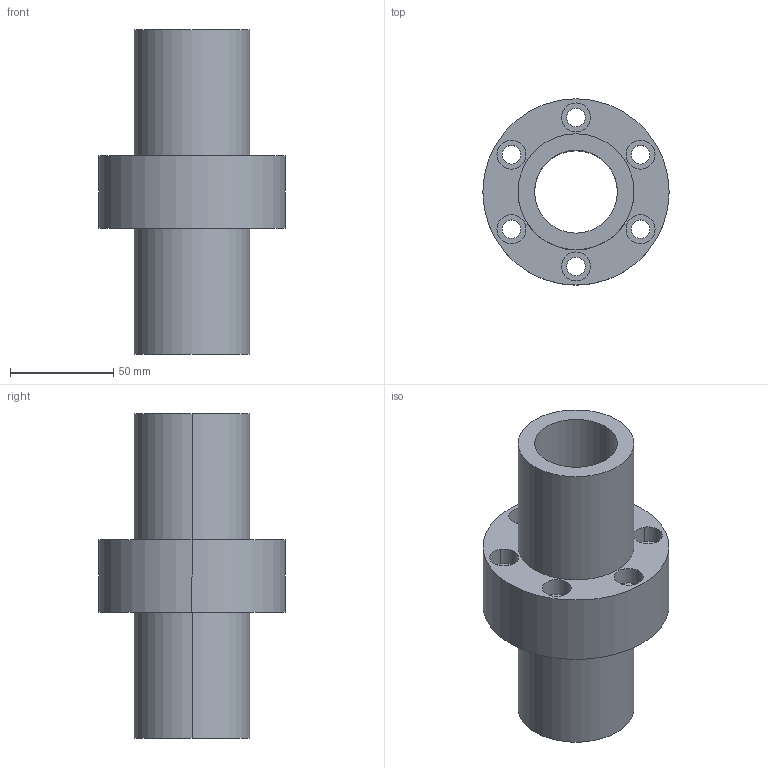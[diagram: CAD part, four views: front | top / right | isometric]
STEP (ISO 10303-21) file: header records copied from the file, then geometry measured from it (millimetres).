
FILE_DESCRIPTION((''),'2;1');
FILE_NAME('40-6T6','2008-04-07T',('yanyu'),(''),'PRO/ENGINEER BY PARAMETRIC TECHNOLOGY CORPORATION, 2005070','PRO/ENGINEER BY PARAMETRIC TECHNOLOGY CORPORATION, 2005070','');
FILE_SCHEMA(('CONFIG_CONTROL_DESIGN'));
Length unit declared in the file: millimetre
Products named in the file (1): 40-6T6
Bounding box: 90 x 90 x 157 mm (x, y, z)
Volume: 307889.4 mm3; surface area: 67274.1 mm2
Topology: 1 solids, 1 shells, 42 faces, 104 edges, 72 vertices
Faces by surface type: cylinder 32, plane 10
Entity records: 1370 total; most frequent: DIRECTION 260, CARTESIAN_POINT 218, ORIENTED_EDGE 208, AXIS2_PLACEMENT_3D 114, EDGE_CURVE 104, VERTEX_POINT 72, CIRCLE 72, EDGE_LOOP 64
